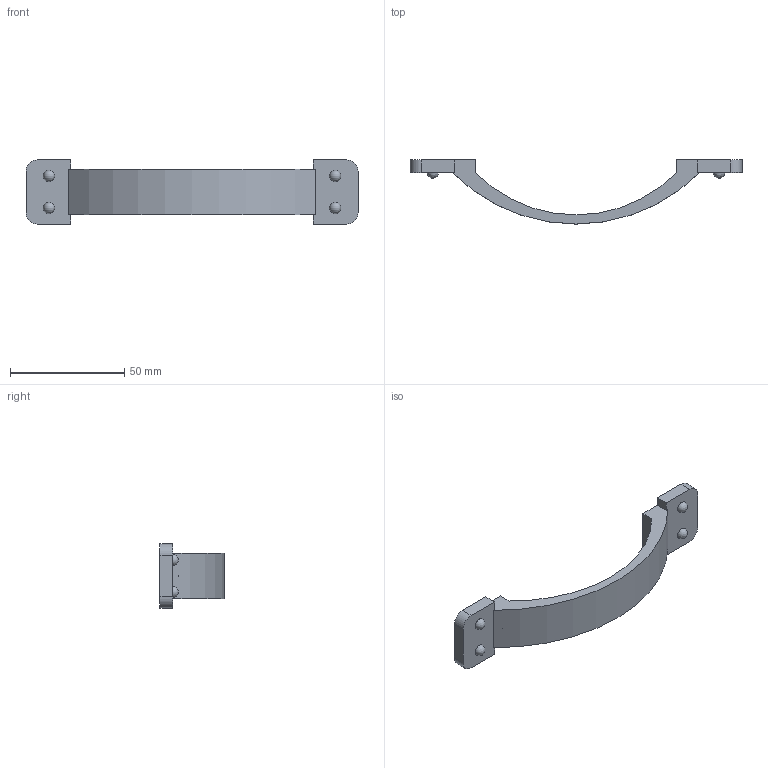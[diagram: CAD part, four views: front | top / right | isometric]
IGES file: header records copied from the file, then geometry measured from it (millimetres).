
Start section: Data from Parasolid IGES Translator 15.0.47, Copyright(c) 2006 Siemens P LM Software. All Rights Reserved.
Global section: file name: 115293.igs; native system:  By UGS Corp.; preprocessor: XPlus GENERIC/IGES 3.0; author: Noname; organization: Noname; date: 20140122.103002; units: millimetre
Bounding box: 145 x 28 x 28 mm (x, y, z)
Surface area: 9453.5 mm2 (no closed solid volume)
Topology: 0 solids, 0 shells, 32 faces, 164 edges, 154 vertices
Faces by surface type: extrusion 20, revolution 12
